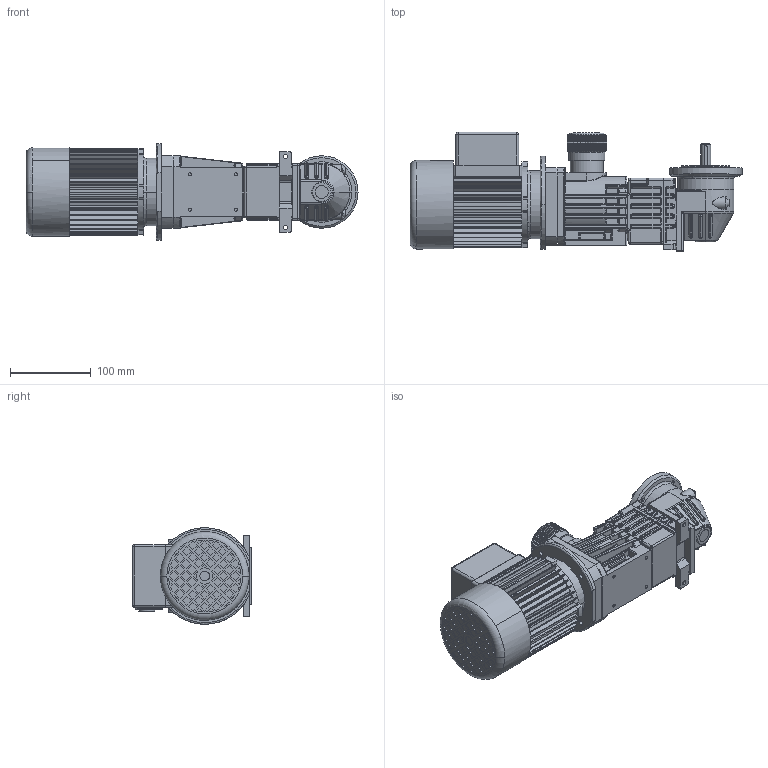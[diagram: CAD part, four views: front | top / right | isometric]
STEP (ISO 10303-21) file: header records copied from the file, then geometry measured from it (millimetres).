
FILE_DESCRIPTION(('CoCreate Modeling STEP Export'),'2;1');
FILE_NAME('K23W2_K27W2_ig_alle_BF_B14_W2_Wellenanordnung_C_Standardstelleinrichtung_180W_Motor.stp','2014-12-03T15:53:40',(''),(''),'CoCreate Modeling STEP processor for AP214 (Solid Model)','CoCreate Modeling 16.00C 25-Feb-2009 (C) Parametric Technology GmbH','');
FILE_SCHEMA(('AUTOMOTIVE_DESIGN { 1 0 10303 214 1 1 1 1 }'));
Products named in the file (3): K23W2_K27W2_ig_alle_BF_B14_W2_Wellenanordnung_C_Standardstelleinrichtun
g; 180W_Motor.01; K23W2_K27W2_ig_alle_BF_B14_W2_Wellenanordnung_C_Standardstelleinrichtun
g_180W_Motor
Assembly tree (2 placements, depth 2):
  K23W2_K27W2_ig_alle_BF_B14_W2_Wellenanordnung_C_Standardstelleinrichtun
g_180W_Motor
    180W_Motor.01
    K23W2_K27W2_ig_alle_BF_B14_W2_Wellenanordnung_C_Standardstelleinrichtun
g
Bounding box: 412.11 x 148.43 x 120 mm (x, y, z)
Volume: 3043032 mm3; surface area: 283895.1 mm2
Topology: 2 solids, 7 shells, 2805 faces, 7022 edges, 4241 vertices
Faces by surface type: plane 1019, cylinder 884, bspline 636, torus 148, sphere 65, cone 28, extrusion 25
Entity records: 169641 total; most frequent: CARTESIAN_POINT 97397, ORIENTED_EDGE 13826, DIRECTION 8802, EDGE_CURVE 6913, VERTEX_POINT 4241, AXIS2_PLACEMENT_3D 2960, EDGE_LOOP 2948, VECTOR 2882
